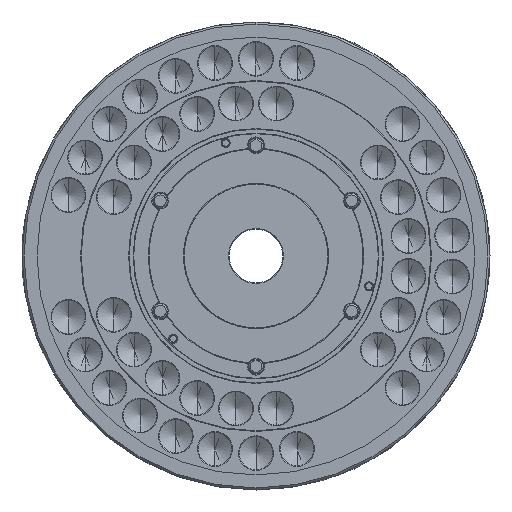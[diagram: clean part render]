
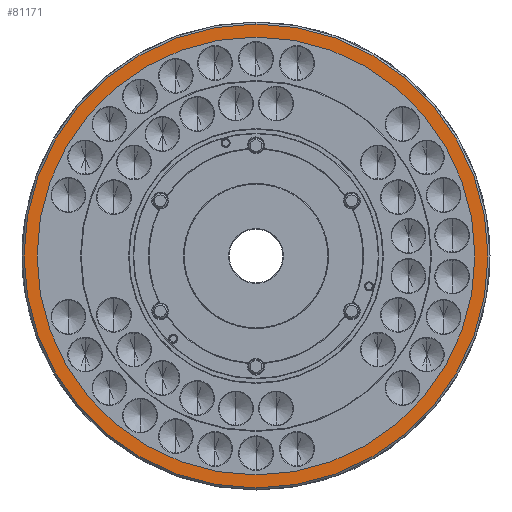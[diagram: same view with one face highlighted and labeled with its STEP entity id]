
A CAD part, left-side view. The second image highlights one B-rep face of the part: STEP entity #81171.
In plain terms, the highlighted planar face has unit normal (-1, 0, 0).
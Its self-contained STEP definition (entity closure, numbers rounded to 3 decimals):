
#8028 = DIRECTION ( 'NONE',  ( 1., 0., 0. ) ) ;
#23921 = FACE_OUTER_BOUND ( 'NONE', #210057, .T. ) ;
#29051 = CARTESIAN_POINT ( 'NONE',  ( -149., 0., 0. ) ) ;
#38240 = CARTESIAN_POINT ( 'NONE',  ( -149., 0., -347. ) ) ;
#42910 = EDGE_LOOP ( 'NONE', ( #128911, #70078 ) ) ;
#45356 = CARTESIAN_POINT ( 'NONE',  ( -149., 0., 0. ) ) ;
#55554 = DIRECTION ( 'NONE',  ( 1., 0., 0. ) ) ;
#59726 = DIRECTION ( 'NONE',  ( 0., 0., -1. ) ) ;
#60002 = AXIS2_PLACEMENT_3D ( 'NONE', #248527, #8028, #87366 ) ;
#70078 = ORIENTED_EDGE ( 'NONE', *, *, #240943, .T. ) ;
#81171 = ADVANCED_FACE ( 'NONE', ( #221589, #23921 ), #239800, .T. ) ;
#81959 = CIRCLE ( 'NONE', #227288, 327.5 ) ;
#83752 = VERTEX_POINT ( 'NONE', #104982 ) ;
#87366 = DIRECTION ( 'NONE',  ( 0., 0., -1. ) ) ;
#102230 = ORIENTED_EDGE ( 'NONE', *, *, #220160, .F. ) ;
#103338 = CIRCLE ( 'NONE', #232159, 327.5 ) ;
#104545 = DIRECTION ( 'NONE',  ( 1., 0., 0. ) ) ;
#104982 = CARTESIAN_POINT ( 'NONE',  ( -149., 0., 327.5 ) ) ;
#107089 = DIRECTION ( 'NONE',  ( 0., 0., -1. ) ) ;
#114004 = CIRCLE ( 'NONE', #60002, 347. ) ;
#114085 = CARTESIAN_POINT ( 'NONE',  ( -149., 0., 0. ) ) ;
#122754 = CARTESIAN_POINT ( 'NONE',  ( -149., 0., -327.5 ) ) ;
#128911 = ORIENTED_EDGE ( 'NONE', *, *, #211889, .T. ) ;
#132493 = CIRCLE ( 'NONE', #219794, 347. ) ;
#140987 = CARTESIAN_POINT ( 'NONE',  ( -149., 347., 0. ) ) ;
#151582 = AXIS2_PLACEMENT_3D ( 'NONE', #140987, #163011, #222867 ) ;
#163011 = DIRECTION ( 'NONE',  ( -1., 0., 0. ) ) ;
#170226 = VERTEX_POINT ( 'NONE', #122754 ) ;
#181930 = DIRECTION ( 'NONE',  ( 1., 0., 0. ) ) ;
#186012 = EDGE_CURVE ( 'NONE', #201584, #209638, #114004, .T. ) ;
#201584 = VERTEX_POINT ( 'NONE', #38240 ) ;
#209638 = VERTEX_POINT ( 'NONE', #254674 ) ;
#210057 = EDGE_LOOP ( 'NONE', ( #219931, #102230 ) ) ;
#211889 = EDGE_CURVE ( 'NONE', #170226, #83752, #81959, .T. ) ;
#216785 = DIRECTION ( 'NONE',  ( 0., 0., -1. ) ) ;
#219794 = AXIS2_PLACEMENT_3D ( 'NONE', #45356, #181930, #59726 ) ;
#219931 = ORIENTED_EDGE ( 'NONE', *, *, #186012, .F. ) ;
#220160 = EDGE_CURVE ( 'NONE', #209638, #201584, #132493, .T. ) ;
#221589 = FACE_BOUND ( 'NONE', #42910, .T. ) ;
#222867 = DIRECTION ( 'NONE',  ( 0., 0., 1. ) ) ;
#227288 = AXIS2_PLACEMENT_3D ( 'NONE', #114085, #55554, #216785 ) ;
#232159 = AXIS2_PLACEMENT_3D ( 'NONE', #29051, #104545, #107089 ) ;
#239800 = PLANE ( 'NONE',  #151582 ) ;
#240943 = EDGE_CURVE ( 'NONE', #83752, #170226, #103338, .T. ) ;
#248527 = CARTESIAN_POINT ( 'NONE',  ( -149., 0., 0. ) ) ;
#254674 = CARTESIAN_POINT ( 'NONE',  ( -149., 0., 347. ) ) ;
